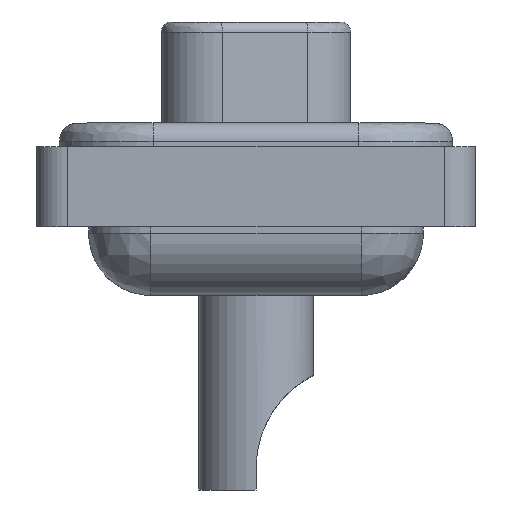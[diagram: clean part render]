
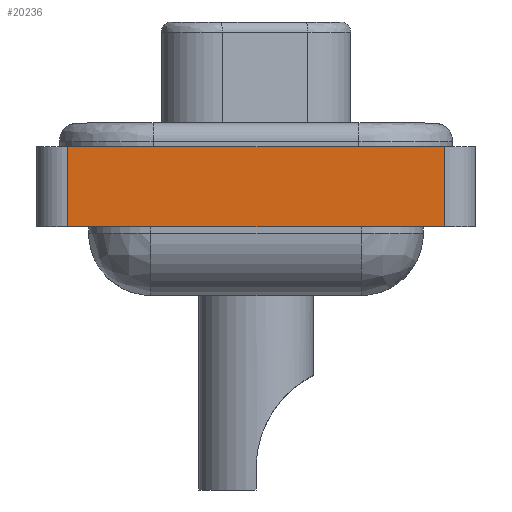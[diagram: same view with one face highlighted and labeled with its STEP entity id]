
A CAD part, left-side view. The second image highlights one B-rep face of the part: STEP entity #20236.
In plain terms, the highlighted planar face has unit normal (-1, 0, 0).
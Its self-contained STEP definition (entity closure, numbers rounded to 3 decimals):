
#699 = VECTOR ( 'NONE', #9884, 1000. ) ;
#1063 = VECTOR ( 'NONE', #20702, 1000. ) ;
#1260 = EDGE_CURVE ( 'NONE', #3445, #20753, #5266, .T. ) ;
#1548 = EDGE_CURVE ( 'NONE', #2301, #3445, #17285, .T. ) ;
#1556 = CARTESIAN_POINT ( 'NONE',  ( -19.75, -9.05, 0.75 ) ) ;
#1697 = ORIENTED_EDGE ( 'NONE', *, *, #1548, .F. ) ;
#1869 = DIRECTION ( 'NONE',  ( 0., 0., -1. ) ) ;
#2063 = VECTOR ( 'NONE', #20148, 1000. ) ;
#2301 = VERTEX_POINT ( 'NONE', #2821 ) ;
#2821 = CARTESIAN_POINT ( 'NONE',  ( -19.75, 9.05, 4.6 ) ) ;
#3445 = VERTEX_POINT ( 'NONE', #5642 ) ;
#4157 = CARTESIAN_POINT ( 'NONE',  ( -19.75, 10.55, 0.75 ) ) ;
#4875 = AXIS2_PLACEMENT_3D ( 'NONE', #13939, #20434, #20335 ) ;
#5068 = VERTEX_POINT ( 'NONE', #13693 ) ;
#5180 = LINE ( 'NONE', #10094, #699 ) ;
#5266 = LINE ( 'NONE', #5480, #17827 ) ;
#5480 = CARTESIAN_POINT ( 'NONE',  ( -19.75, -9.05, 4.677 ) ) ;
#5642 = CARTESIAN_POINT ( 'NONE',  ( -19.75, -9.05, 4.6 ) ) ;
#6478 = EDGE_CURVE ( 'NONE', #2301, #5068, #5180, .T. ) ;
#6639 = EDGE_LOOP ( 'NONE', ( #1697, #7344, #7599, #20634 ) ) ;
#7056 = LINE ( 'NONE', #4157, #2063 ) ;
#7339 = FACE_OUTER_BOUND ( 'NONE', #6639, .T. ) ;
#7344 = ORIENTED_EDGE ( 'NONE', *, *, #6478, .T. ) ;
#7599 = ORIENTED_EDGE ( 'NONE', *, *, #8469, .T. ) ;
#8469 = EDGE_CURVE ( 'NONE', #5068, #20753, #7056, .T. ) ;
#9198 = CARTESIAN_POINT ( 'NONE',  ( -19.75, 0., 4.6 ) ) ;
#9884 = DIRECTION ( 'NONE',  ( 0., 0., -1. ) ) ;
#10094 = CARTESIAN_POINT ( 'NONE',  ( -19.75, 9.05, 0.75 ) ) ;
#13693 = CARTESIAN_POINT ( 'NONE',  ( -19.75, 9.05, 0.75 ) ) ;
#13838 = PLANE ( 'NONE',  #4875 ) ;
#13939 = CARTESIAN_POINT ( 'NONE',  ( -19.75, 10.55, 0.75 ) ) ;
#17285 = LINE ( 'NONE', #9198, #1063 ) ;
#17827 = VECTOR ( 'NONE', #1869, 1000. ) ;
#20148 = DIRECTION ( 'NONE',  ( 0., -1., 0. ) ) ;
#20236 = ADVANCED_FACE ( 'NONE', ( #7339 ), #13838, .T. ) ;
#20335 = DIRECTION ( 'NONE',  ( 0., 0., 1. ) ) ;
#20434 = DIRECTION ( 'NONE',  ( -1., 0., 0. ) ) ;
#20634 = ORIENTED_EDGE ( 'NONE', *, *, #1260, .F. ) ;
#20702 = DIRECTION ( 'NONE',  ( 0., -1., 0. ) ) ;
#20753 = VERTEX_POINT ( 'NONE', #1556 ) ;
